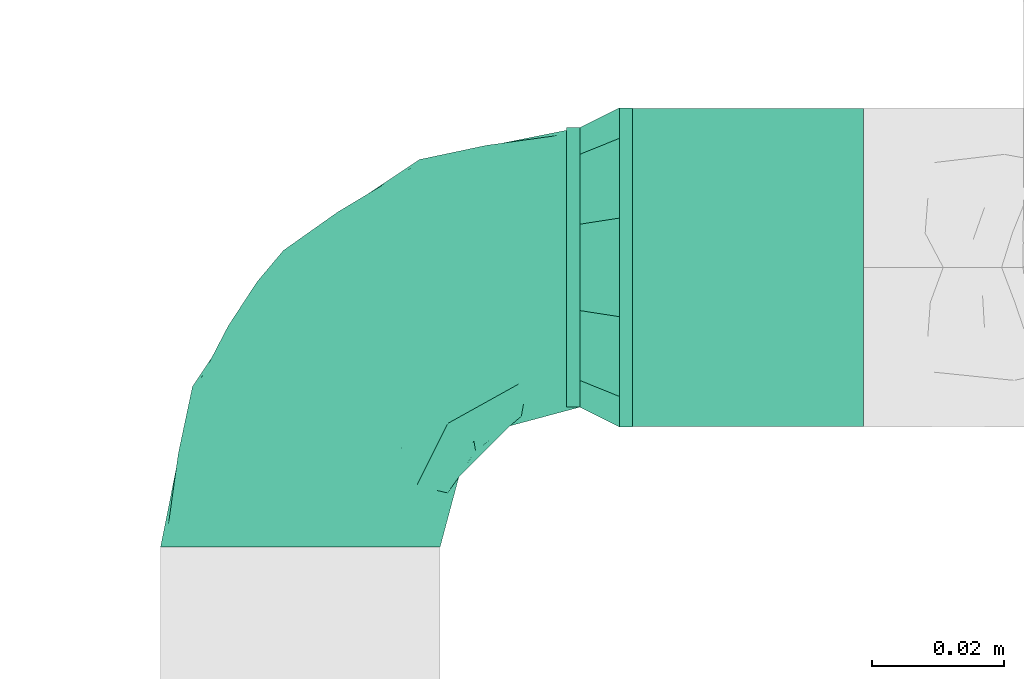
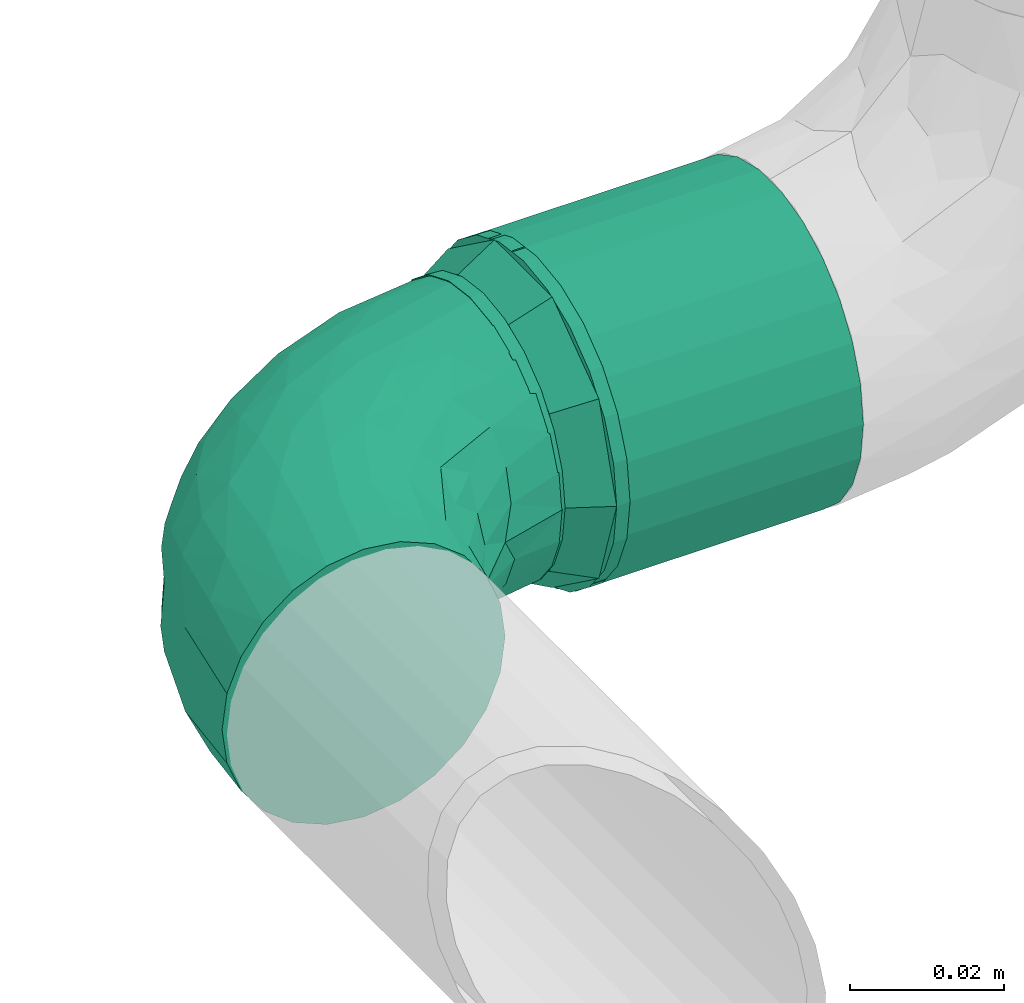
# One storey, part 25 of 43: 2 flow fittings, 1 flow segment.
"""IFC2X3 building model written with IfcOpenShell, lengths in millimetres."""

from ifc_helpers import new_model, entity, si_unit, converted_unit, derived_unit, direction, frame, origin_with_axes, origin_2d_with_axis, place, context, subcontext, project, spatial, hollow_circle, extrude, open_shell, surface_model, source, transform, mapped, type_object, element, save


model = new_model("IFC2X3")

# Units and contexts
model_context = context("Model", 3, precision=0.01, world=frame((0.0, 4.29681676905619e-09, 0.0)), true_north=direction((4.01073788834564e-13, 1.0)))
plan_context = context("Plan", 3, precision=0.01, world=frame((0.0, 4.29681676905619e-09, 0.0)), true_north=direction((4.01073788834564e-13, 1.0)))
body_context = subcontext(model_context, "Body", "Model", "MODEL_VIEW")
ifc_project = project(units=[converted_unit("PLANEANGLEUNIT", "DEGREE", entity("IfcPositiveLengthMeasure", 0.0174532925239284), si_unit("PLANEANGLEUNIT", "RADIAN"), dimensions=[0, 0, 0, 0, 0, 0, 0]), si_unit("AREAUNIT", "SQUARE_METRE"), si_unit("LENGTHUNIT", "METRE", prefix="MILLI"), si_unit("MASSUNIT", "GRAM", prefix="KILO"), si_unit("POWERUNIT", "WATT"), si_unit("PRESSUREUNIT", "PASCAL"), si_unit("FORCEUNIT", "NEWTON", prefix="KILO"), si_unit("ELECTRICVOLTAGEUNIT", "VOLT"), si_unit("ELECTRICCURRENTUNIT", "AMPERE"), si_unit("THERMODYNAMICTEMPERATUREUNIT", "DEGREE_CELSIUS"), si_unit("TIMEUNIT", "SECOND"), si_unit("VOLUMEUNIT", "CUBIC_METRE"), derived_unit("LINEARVELOCITYUNIT", [(si_unit("LENGTHUNIT", "METRE"), 1), (si_unit("TIMEUNIT", "SECOND"), -1)]), derived_unit("VOLUMETRICFLOWRATEUNIT", [(si_unit("VOLUMEUNIT", "CUBIC_METRE"), 1), (si_unit("TIMEUNIT", "SECOND"), -1)]), derived_unit("THERMALTRANSMITTANCEUNIT", [(si_unit("POWERUNIT", "WATT"), 1), (si_unit("THERMODYNAMICTEMPERATUREUNIT", "KELVIN"), -1), (si_unit("AREAUNIT", "SQUARE_METRE"), -1)]), derived_unit("SOUNDPRESSUREUNIT", [(si_unit("PRESSUREUNIT", "PASCAL"), 1)])], contexts=[model_context, plan_context])

# Site, building, storey
site_placement = place(None, frame((0.0, -4.29681676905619e-09, 0.0), z_axis=(0.0, 0.0, 1.0), x_axis=(1.0, 0.0, 0.0)))
site = spatial("IfcSite", under=ifc_project, at=site_placement, CompositionType="ELEMENT")
building_placement = place(site_placement, frame((0.0, 4.29681676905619e-09, 0.0), z_axis=(0.0, 0.0, 1.0), x_axis=(1.0, 0.0, 0.0)))
building = spatial("IfcBuilding", under=site, at=building_placement, Name="mc-building", CompositionType="ELEMENT")
storey_placement = place(building_placement, frame((0.0, 0.0, 210900.0), z_axis=(0.0, 0.0, 1.0), x_axis=(1.0, 0.0, 0.0)))
storey = spatial("IfcBuildingStorey", under=building, at=storey_placement, Name="Nivå F", CompositionType="ELEMENT", Elevation=210900.0)

# Flow fittings
pipe_fitting_type_1 = type_object("IfcPipeFittingType", Name="magi_pipe_fe_elbow_short_001", PredefinedType="BEND")
shared_shape_1 = source(origin_with_axes(), body_context, "Body", "SurfaceModel", [
    surface_model("IfcShellBasedSurfaceModel", [(-42.4, 10.6, -18.35974), (-42.4, 5.48696, -20.47763), (-42.4, 0.0, -21.2), (-42.4, 14.99066, -14.99066), (-42.4, 20.47763, -5.48696), (-42.4, 18.35974, -10.6), (-42.4, -14.99066, 14.99066), (-42.4, -21.2, 0.0), (-42.4, -10.6, -18.35974), (-42.4, -14.99066, -14.99066), (-42.4, -5.48696, -20.47763), (-42.4, -18.35974, -10.6), (-42.4, -20.47763, -5.48696), (-42.4, 10.6, 18.35974), (-42.4, 20.47763, 5.48696), (-42.4, 18.35974, 10.6), (-42.4, 14.99066, 14.99066), (-42.4, 5.48696, 20.47763), (-42.4, 0.0, 21.2), (-42.4, -20.47763, 5.48696), (-42.4, -18.35974, 10.6), (-42.4, -10.6, 18.35974), (-42.4, -5.48696, 20.47763), (-42.4, 21.2, 0.0), (0.0, 42.4, -21.2), (-5.48696, 42.4, -20.47763), (-10.6, 42.4, -18.35974), (-14.99066, 42.4, -14.99066), (-18.35974, 42.4, -10.6), (-20.47763, 42.4, -5.48696), (21.2, 42.4, 0.0), (5.48696, 42.4, -20.47763), (14.99066, 42.4, -14.99066), (10.6, 42.4, -18.35974), (18.35974, 42.4, -10.6), (20.47763, 42.4, -5.48696), (14.99066, 42.4, 14.99066), (-20.47763, 42.4, 5.48696), (-10.6, 42.4, 18.35974), (-14.99066, 42.4, 14.99066), (-18.35974, 42.4, 10.6), (-5.48696, 42.4, 20.47763), (0.0, 42.4, 21.2), (18.35974, 42.4, 10.6), (20.47763, 42.4, 5.48696), (5.48696, 42.4, 20.47763), (10.6, 42.4, 18.35974), (-21.2, 42.4, 0.0), (-31.10239, -16.47009, 11.90111), (-27.83957, -12.231, 15.79732), (-30.23067, -18.77937, 0.0), (-18.74048, -13.50096, 10.69998), (-28.17586, -18.50359, 6.61185), (18.50359, 28.17586, 6.61185), (14.95929, 16.60735, 5.43468), (16.35874, 18.06133, 0.0), (-20.72313, 33.83635, 9.21426), (-17.70981, 33.00599, 13.92769), (-31.16033, -8.01664, 19.07348), (-32.38682, -2.80842, 20.83743), (-29.68688, 3.24967, 21.16387), (-7.74467, -9.46536, 0.0), (-16.60735, -14.95929, 5.43468), (-18.06133, -16.35874, 0.0), (-16.37932, -5.14532, 17.61254), (-21.10659, -0.19025, 20.54817), (-1.82445, -3.58377, 9.55223), (-0.35533, 0.43745, 12.66367), (-7.20655, -5.07682, 13.06146), (-33.14056, 17.6728, 13.91288), (-7.36799, 20.84806, 21.16196), (-15.70315, 15.70315, 20.68489), (-12.62356, 9.26422, 21.0908), (-36.67879, 12.83836, 17.27427), (-7.91358, 36.5686, 19.85759), (-2.90555, 31.71221, 21.14793), (-33.84689, 20.71971, 9.21285), (-33.51649, 22.58113, 4.66115), (-26.3226, 26.3226, 7.92474), (-32.67995, 8.31454, 20.02643), (-5.53379, 14.19921, 20.81623), (-10.53385, 3.88918, 19.79653), (-2.16577, 11.45378, 19.48254), (-3.78693, 3.78693, 17.3328), (12.231, 27.83957, 15.79732), (13.50096, 18.74047, 10.69998), (16.47009, 31.10239, 11.90111), (-22.53806, 14.38475, 19.60876), (-23.29615, 9.08095, 20.82061), (2.80842, 32.38682, 20.83743), (8.01664, 31.16033, 19.07348), (5.14532, 16.37932, 17.61254), (18.77937, 30.23067, 0.0), (-20.80278, 5.19491, 21.19095), (-19.62579, 22.38752, 17.42006), (-29.19336, 14.39093, 17.85259), (-22.31569, 34.20044, 4.54807), (-26.56962, 27.80621, 3.73106), (9.67657, 17.17133, 14.49993), (-24.04026, 31.8, 0.0), (-9.16861, 28.72652, 20.19004), (-12.09761, 21.9456, 20.37969), (-15.36991, 27.40112, 17.818), (-16.88976, 20.52477, 19.2896), (-12.95169, 35.54896, 17.36222), (-17.17133, -9.67657, 14.49993), (-21.98655, 28.10245, 11.99898), (-22.34699, 23.67592, 15.01692), (-27.22822, 22.77969, 11.82161), (0.19025, 21.10658, 20.54817), (4.8276, 7.36347, 13.42842), (-10.06209, -9.46364, 9.95114), (1.25876, -2.7536, 5.73797), (6.43781, 3.77591, 7.40371), (6.57528, 2.20066, 3.17705), (10.91934, 8.84313, 5.00748), (10.64415, 10.99764, 8.89767), (-31.8, 24.04026, 0.0), (-5.71381, -8.43063, 6.15529), (2.57199, -2.57199, 0.0), (9.46536, 7.74467, 0.0), (-17.17133, -9.67657, -14.49993), (-27.83957, -12.231, -15.79732), (-16.37932, -5.14532, -17.61254), (-18.74048, -13.50096, -10.69998), (-33.00599, 17.70981, -13.92769), (-35.54896, 12.95169, -17.36222), (-34.20044, 22.31569, -4.54807), (-28.17586, -18.50359, -6.61185), (-26.3226, 26.3226, -7.92474), (-33.83635, 20.72313, -9.21426), (-16.60735, -14.95929, -5.43468), (-20.52477, 16.88976, -19.2896), (-21.9456, 12.0976, -20.37969), (-27.40112, 15.36991, -17.818), (-12.83836, 36.67879, -17.27427), (-17.6728, 33.14056, -13.91288), (8.01664, 31.16033, -19.07348), (5.14532, 16.37932, -17.61254), (0.19025, 21.10658, -20.54817), (-36.5686, 7.91358, -19.85759), (-31.10239, -16.47009, -11.90111), (-31.16033, -8.01664, -19.07348), (-14.38475, 22.53806, -19.60876), (-8.31454, 32.67995, -20.02643), (-9.08095, 23.29615, -20.82061), (-32.38682, -2.80842, -20.83743), (-20.84806, 7.36799, -21.16196), (-15.70315, 15.70314, -20.68489), (-9.26422, 12.62356, -21.0908), (-31.71221, 2.90555, -21.14793), (-22.58113, 33.51649, -4.66115), (-20.71971, 33.84689, -9.21285), (-28.72652, 9.16861, -20.19004), (-27.80621, 26.56962, -3.73106), (-5.19491, 20.80278, -21.19095), (-22.38752, 19.62579, -17.42006), (-14.39093, 29.19336, -17.85259), (2.80842, 32.38682, -20.83743), (-3.24967, 29.68688, -21.16387), (16.47009, 31.10239, -11.90111), (12.231, 27.83957, -15.79732), (6.57528, 2.20067, -3.17705), (10.91934, 8.84313, -5.00749), (-14.19921, 5.53379, -20.81623), (-3.88918, 10.53385, -19.79653), (-11.45378, 2.16577, -19.48254), (1.25876, -2.7536, -5.73797), (-5.71381, -8.43063, -6.15529), (-1.82445, -3.58377, -9.55223), (13.50096, 18.74048, -10.69998), (18.50359, 28.17586, -6.61185), (14.95929, 16.60735, -5.43468), (-28.10245, 21.98655, -11.99898), (9.67657, 17.17133, -14.49993), (10.64415, 10.99764, -8.89767), (4.8276, 7.36347, -13.42842), (-23.67592, 22.34699, -15.01692), (-22.77969, 27.22822, -11.82161), (-21.10658, -0.19025, -20.54817), (-3.78693, 3.78693, -17.3328), (-7.20655, -5.07682, -13.06146), (-10.06209, -9.46364, -9.95113), (-0.35533, 0.43745, -12.66367), (6.43781, 3.77591, -7.40371)], [open_shell([[[0, 1, 2]], [[3, 0, 2]], [[4, 5, 3]], [[2, 4, 3]], [[6, 2, 7]], [[8, 9, 10]], [[11, 10, 9]], [[12, 7, 11]], [[2, 10, 11]], [[11, 7, 2]], [[6, 4, 2]], [[13, 14, 4]], [[15, 14, 16]], [[4, 6, 13]], [[16, 14, 13]], [[17, 13, 18]], [[19, 20, 7]], [[7, 20, 6]], [[21, 22, 6]], [[18, 6, 22]], [[6, 18, 13]], [[23, 4, 14]], [[24, 25, 26]], [[24, 26, 27]], [[27, 28, 29]], [[27, 29, 24]], [[24, 29, 30]], [[31, 32, 33]], [[31, 24, 32]], [[34, 30, 35]], [[32, 24, 34]], [[24, 30, 34]], [[29, 36, 30]], [[29, 37, 38]], [[39, 37, 40]], [[36, 29, 38]], [[38, 37, 39]], [[41, 42, 38]], [[30, 43, 44]], [[36, 43, 30]], [[36, 45, 46]], [[45, 36, 42]], [[38, 42, 36]], [[37, 29, 47]], [[6, 48, 49]], [[19, 7, 50]], [[51, 48, 52]], [[53, 54, 55]], [[48, 6, 20]], [[19, 52, 20]], [[40, 56, 57]], [[49, 21, 6]], [[49, 58, 21]], [[18, 59, 60]], [[61, 62, 63]], [[58, 64, 65]], [[66, 67, 68]], [[15, 16, 69]], [[70, 71, 72]], [[13, 73, 16]], [[22, 59, 18]], [[41, 74, 75]], [[18, 60, 17]], [[15, 69, 76]], [[16, 73, 69]], [[23, 14, 77]], [[14, 15, 76]], [[77, 76, 78]], [[17, 79, 13]], [[80, 81, 82]], [[68, 83, 64]], [[84, 36, 46]], [[85, 86, 84]], [[87, 79, 88]], [[21, 58, 22]], [[42, 89, 45]], [[53, 44, 43]], [[42, 41, 75]], [[84, 90, 91]], [[43, 86, 53]], [[92, 44, 53]], [[86, 43, 36]], [[90, 46, 45]], [[53, 55, 92]], [[88, 93, 72]], [[54, 53, 85]], [[87, 94, 95]], [[78, 96, 97]], [[98, 84, 91]], [[99, 96, 47]], [[79, 17, 60]], [[96, 78, 56]], [[62, 52, 63]], [[57, 39, 40]], [[100, 70, 75]], [[101, 102, 103]], [[19, 50, 52]], [[104, 38, 39]], [[74, 41, 38]], [[57, 102, 104]], [[105, 64, 49]], [[90, 84, 46]], [[40, 37, 56]], [[56, 106, 57]], [[102, 57, 107]], [[95, 107, 69]], [[76, 108, 78]], [[100, 101, 70]], [[89, 75, 109]], [[64, 58, 49]], [[63, 52, 50]], [[59, 58, 65]], [[105, 49, 51]], [[64, 83, 81]], [[89, 90, 45]], [[30, 44, 92]], [[109, 82, 91]], [[109, 91, 90]], [[91, 83, 110]], [[111, 68, 105]], [[66, 68, 111]], [[62, 51, 52]], [[66, 112, 113]], [[114, 115, 113]], [[98, 85, 84]], [[52, 48, 20]], [[49, 48, 51]], [[84, 86, 36]], [[53, 86, 85]], [[88, 79, 60]], [[73, 79, 95]], [[96, 56, 37]], [[78, 108, 106]], [[87, 103, 94]], [[100, 74, 104]], [[108, 69, 107]], [[78, 97, 77]], [[88, 72, 71]], [[109, 75, 70]], [[81, 72, 65]], [[70, 72, 80]], [[75, 89, 42]], [[90, 89, 109]], [[58, 59, 22]], [[60, 59, 65]], [[67, 83, 68]], [[110, 113, 116]], [[88, 60, 93]], [[87, 88, 71]], [[103, 87, 71]], [[79, 87, 95]], [[101, 103, 71]], [[94, 103, 102]], [[47, 96, 37]], [[96, 99, 97]], [[99, 117, 97]], [[97, 117, 77]], [[23, 77, 117]], [[14, 76, 77]], [[60, 65, 93]], [[65, 72, 93]], [[70, 101, 71]], [[102, 101, 100]], [[69, 108, 76]], [[106, 108, 107]], [[57, 106, 107]], [[78, 106, 56]], [[57, 104, 39]], [[100, 104, 102]], [[102, 107, 94]], [[95, 94, 107]], [[64, 81, 65]], [[82, 81, 83]], [[91, 82, 83]], [[80, 82, 109]], [[70, 80, 109]], [[81, 80, 72]], [[79, 73, 13]], [[69, 73, 95]], [[104, 74, 38]], [[75, 74, 100]], [[62, 61, 118]], [[111, 62, 118]], [[113, 115, 116]], [[119, 118, 61]], [[111, 105, 51]], [[113, 112, 114]], [[120, 55, 54]], [[68, 64, 105]], [[91, 110, 98]], [[116, 98, 110]], [[62, 111, 51]], [[66, 111, 118]], [[112, 66, 118]], [[67, 113, 110]], [[118, 119, 112]], [[114, 112, 119]], [[119, 120, 114]], [[115, 120, 54]], [[120, 115, 114]], [[116, 54, 85]], [[54, 116, 115]], [[116, 85, 98]], [[113, 67, 66]], [[83, 67, 110]], [[121, 122, 123]], [[122, 121, 124]], [[5, 125, 3]], [[3, 126, 0]], [[117, 127, 23]], [[50, 12, 128]], [[127, 129, 130]], [[128, 131, 63]], [[132, 133, 134]], [[27, 135, 136]], [[137, 138, 139]], [[0, 140, 1]], [[128, 11, 141]], [[142, 8, 10]], [[128, 63, 50]], [[5, 4, 130]], [[11, 9, 141]], [[143, 144, 145]], [[146, 10, 2]], [[147, 148, 149]], [[11, 128, 12]], [[124, 141, 122]], [[150, 2, 1]], [[151, 152, 129]], [[125, 134, 126]], [[153, 147, 150]], [[127, 154, 129]], [[145, 155, 149]], [[47, 29, 151]], [[143, 156, 157]], [[152, 29, 28]], [[24, 158, 159]], [[122, 9, 8]], [[27, 26, 135]], [[144, 26, 25]], [[32, 160, 161]], [[24, 31, 158]], [[120, 162, 163]], [[130, 125, 5]], [[27, 136, 28]], [[1, 140, 150]], [[33, 161, 137]], [[142, 122, 8]], [[24, 159, 25]], [[164, 165, 166]], [[167, 168, 169]], [[34, 160, 32]], [[161, 33, 32]], [[170, 160, 171]], [[131, 128, 124]], [[30, 92, 35]], [[35, 92, 171]], [[172, 171, 55]], [[35, 171, 34]], [[144, 25, 159]], [[130, 173, 125]], [[174, 175, 176]], [[136, 152, 28]], [[33, 137, 31]], [[122, 142, 123]], [[134, 125, 177]], [[157, 177, 136]], [[152, 178, 129]], [[153, 133, 147]], [[146, 150, 179]], [[146, 142, 10]], [[7, 12, 50]], [[179, 166, 123]], [[179, 123, 142]], [[123, 180, 181]], [[138, 137, 161]], [[55, 171, 92]], [[158, 137, 139]], [[174, 161, 170]], [[138, 180, 165]], [[180, 138, 176]], [[124, 121, 182]], [[176, 183, 180]], [[61, 131, 168]], [[169, 168, 182]], [[172, 170, 171]], [[122, 141, 9]], [[128, 141, 124]], [[171, 160, 34]], [[161, 160, 170]], [[145, 144, 159]], [[135, 144, 157]], [[127, 130, 4]], [[129, 178, 173]], [[143, 132, 156]], [[153, 140, 126]], [[178, 136, 177]], [[129, 154, 151]], [[145, 149, 148]], [[179, 150, 147]], [[165, 149, 139]], [[147, 149, 164]], [[150, 146, 2]], [[142, 146, 179]], [[137, 158, 31]], [[159, 158, 139]], [[174, 138, 161]], [[184, 169, 183]], [[145, 159, 155]], [[143, 145, 148]], [[132, 143, 148]], [[144, 143, 157]], [[133, 132, 148]], [[156, 132, 134]], [[23, 127, 4]], [[127, 117, 154]], [[117, 99, 154]], [[154, 99, 151]], [[47, 151, 99]], [[29, 152, 151]], [[159, 139, 155]], [[139, 149, 155]], [[147, 133, 148]], [[134, 133, 153]], [[136, 178, 152]], [[173, 178, 177]], [[125, 173, 177]], [[129, 173, 130]], [[125, 126, 3]], [[153, 126, 134]], [[134, 177, 156]], [[157, 156, 177]], [[138, 165, 139]], [[166, 165, 180]], [[123, 166, 180]], [[164, 166, 179]], [[147, 164, 179]], [[165, 164, 149]], [[144, 135, 26]], [[136, 135, 157]], [[126, 140, 0]], [[150, 140, 153]], [[182, 131, 124]], [[168, 119, 61]], [[119, 167, 162]], [[63, 131, 61]], [[172, 163, 175]], [[172, 55, 120]], [[123, 181, 121]], [[182, 121, 181]], [[175, 174, 170]], [[176, 138, 174]], [[169, 182, 181]], [[131, 182, 168]], [[183, 169, 181]], [[167, 169, 184]], [[162, 167, 184]], [[119, 168, 167]], [[163, 162, 184]], [[120, 119, 162]], [[175, 163, 184]], [[120, 163, 172]], [[176, 175, 184]], [[172, 175, 170]], [[180, 183, 181]], [[184, 183, 176]]])]),
])
flow_fitting_1_placement = place(storey_placement, frame((605568.59161, 697325.26176, 2270.0), z_axis=(0.0, 0.0, 1.0), x_axis=(-1.0, 0.0, 0.0)))
element("IfcFlowFitting", 1, at=flow_fitting_1_placement, inside=storey, type_object=pipe_fitting_type_1, Name="magi_pipe_fe_elbow_short_001", context=body_context, shape_type="MappedRepresentation", body=[
    mapped(shared_shape_1, transform((0.0, 0.0, 0.0), scale=1.0)),
])
pipe_fitting_type_2 = type_object("IfcPipeFittingType", Name="magi_pipe_fe_reducer_centric_short_NOR", PredefinedType="TRANSITION")
shared_shape_2 = source(origin_with_axes(), body_context, "Body", "SurfaceModel", [
    surface_model("IfcShellBasedSurfaceModel", [(8.0, 10.6, -18.35974), (8.0, 0.0, -21.2), (8.0, 5.48696, -20.47763), (8.0, 20.47763, -5.48696), (8.0, 14.99066, -14.99066), (8.0, -21.2, 0.0), (8.0, -14.99066, -14.99066), (8.0, 18.35974, -10.6), (8.0, -10.6, -18.35974), (8.0, -5.48696, -20.47763), (8.0, -18.35974, -10.6), (8.0, -20.47763, -5.48696), (8.0, -18.35974, 10.6), (8.0, 21.2, 0.0), (8.0, 20.47763, 5.48696), (8.0, 18.35974, 10.6), (8.0, 14.99066, 14.99066), (8.0, 0.0, 21.2), (8.0, 10.6, 18.35974), (8.0, 5.48696, 20.47763), (8.0, -14.99066, 14.99066), (8.0, -20.47763, 5.48696), (8.0, -5.48696, 20.47763), (8.0, -10.6, 18.35974), (6.0, 0.0, 21.2), (6.0, 5.48696, 20.47763), (6.0, 10.6, 18.35974), (6.0, 14.99066, 14.99066), (6.0, 18.35974, 10.6), (6.0, 20.47763, 5.48696), (6.0, -21.2, 0.0), (6.0, -14.99066, -14.99066), (6.0, -5.48696, 20.47763), (6.0, -14.99066, 14.99066), (6.0, -10.6, 18.35974), (6.0, -18.35974, 10.6), (6.0, -20.47763, 5.48696), (6.0, 20.47763, -5.48696), (6.0, 10.6, -18.35974), (6.0, 14.99066, -14.99066), (6.0, 18.35974, -10.6), (6.0, 5.48696, -20.47763), (6.0, 0.0, -21.2), (6.0, -18.35974, -10.6), (6.0, -20.47763, -5.48696), (6.0, -10.6, -18.35974), (6.0, -5.48696, -20.47763), (6.0, 21.2, 0.0), (-2.0, 0.0, 24.2), (-2.0, 6.26342, 23.37541), (-2.0, 12.1, 20.95781), (-2.0, 17.11198, 17.11198), (-2.0, 24.2, 0.0), (-2.0, 20.95781, 12.1), (-2.0, -23.37541, 6.26342), (-2.0, -17.11198, -17.11198), (-2.0, -6.26342, 23.37541), (-2.0, -17.11198, 17.11198), (-2.0, -12.1, 20.95781), (-2.0, -20.95781, 12.1), (-2.0, -24.2, 0.0), (-2.0, 23.37541, 6.26342), (-2.0, 23.37541, -6.26342), (-2.0, 6.26342, -23.37541), (-2.0, 17.11198, -17.11198), (-2.0, 20.95781, -12.1), (-2.0, 12.1, -20.95781), (-2.0, -23.37541, -6.26342), (-2.0, -20.95781, -12.1), (-2.0, -6.26342, -23.37541), (-2.0, -12.1, -20.95781), (-2.0, 0.0, -24.2), (0.0, 24.2, 0.0), (0.0, 6.26342, -23.37541), (0.0, 12.1, -20.95781), (0.0, 23.37541, -6.26342), (0.0, 17.11198, -17.11198), (0.0, 20.95781, -12.1), (0.0, -24.2, 0.0), (0.0, -12.1, -20.95781), (0.0, -6.26342, -23.37541), (0.0, 0.0, -24.2), (0.0, -17.11198, -17.11198), (0.0, -23.37541, -6.26342), (0.0, -20.95781, -12.1), (0.0, 20.95781, 12.1), (0.0, 17.11198, 17.11198), (0.0, 12.1, 20.95781), (0.0, 6.26342, 23.37541), (0.0, 0.0, 24.2), (0.0, -23.37541, 6.26342), (0.0, -17.11198, 17.11198), (0.0, -20.95781, 12.1), (0.0, -6.26342, 23.37541), (0.0, -12.1, 20.95781), (0.0, 23.37541, 6.26342), (6.0, -6.55116, 20.1624), (6.0, -17.15116, 12.46105), (6.0, 17.15116, 12.46105), (6.0, 6.55116, 20.1624), (6.0, -6.55116, -20.1624), (6.0, -17.15116, -12.46105), (6.0, 6.55116, -20.1624), (6.0, 17.15116, -12.46105), (0.0, 7.47821, 23.01557), (0.0, 19.57821, 14.2244), (0.0, -7.47821, 23.01557), (0.0, -19.57821, 14.2244), (0.0, 7.47821, -23.01557), (0.0, 19.57821, -14.2244), (0.0, -7.47821, -23.01557), (0.0, -19.57821, -14.2244), (6.0, 11.85116, -16.31172), (0.0, 13.52821, -18.61999), (0.0, 21.8891, -7.1122), (6.0, 19.17558, -6.23052), (0.0, -22.51537, -5.18476), (6.0, 0.0, -20.1624), (0.0, 0.0, -23.01557), (6.0, -19.17558, -6.23052), (0.0, -13.52821, -18.61999), (6.0, -11.85116, -16.31172), (0.0, -21.04679, -9.70458), (6.0, -11.85116, 16.31172), (0.0, -13.52821, 18.61999), (0.0, -21.8891, 7.1122), (6.0, -19.17558, 6.23052), (0.0, 22.51537, 5.18476), (6.0, 0.0, 20.1624), (0.0, 0.0, 23.01557), (6.0, 19.17558, 6.23052), (0.0, 13.52821, 18.61999), (6.0, 11.85116, 16.31172), (0.0, 21.04679, 9.70458)], [open_shell([[[0, 1, 2]], [[3, 0, 4]], [[5, 6, 0]], [[3, 4, 7]], [[3, 5, 0]], [[1, 8, 9]], [[1, 0, 8]], [[10, 5, 11]], [[8, 0, 6]], [[10, 6, 5]], [[12, 3, 13]], [[14, 15, 16]], [[14, 16, 17]], [[18, 19, 17]], [[18, 17, 16]], [[14, 17, 20]], [[5, 12, 21]], [[3, 12, 5]], [[20, 22, 23]], [[12, 14, 20]], [[17, 22, 20]], [[12, 13, 14]], [[24, 25, 26]], [[24, 26, 27]], [[27, 28, 29]], [[27, 29, 24]], [[30, 24, 31]], [[32, 33, 34]], [[32, 24, 33]], [[35, 30, 36]], [[33, 24, 35]], [[24, 30, 35]], [[24, 29, 31]], [[29, 37, 38]], [[39, 37, 40]], [[31, 29, 38]], [[38, 37, 39]], [[41, 42, 38]], [[30, 43, 44]], [[31, 43, 30]], [[45, 42, 46]], [[45, 31, 38]], [[42, 45, 38]], [[37, 29, 47]], [[44, 11, 30]], [[43, 10, 44]], [[8, 31, 45]], [[43, 31, 6]], [[9, 45, 46]], [[44, 10, 11]], [[11, 5, 30]], [[9, 8, 45]], [[6, 31, 8]], [[6, 10, 43]], [[1, 9, 46]], [[46, 42, 1]], [[41, 2, 42]], [[38, 0, 41]], [[7, 39, 40]], [[38, 39, 4]], [[3, 40, 37]], [[38, 4, 0]], [[0, 2, 41]], [[13, 3, 37]], [[7, 40, 3]], [[7, 4, 39]], [[47, 13, 37]], [[42, 2, 1]], [[29, 14, 47]], [[28, 15, 29]], [[18, 27, 26]], [[28, 27, 16]], [[19, 26, 25]], [[29, 15, 14]], [[14, 13, 47]], [[19, 18, 26]], [[16, 27, 18]], [[16, 15, 28]], [[17, 19, 25]], [[25, 24, 17]], [[32, 22, 24]], [[34, 23, 32]], [[12, 33, 35]], [[34, 33, 20]], [[21, 35, 36]], [[34, 20, 23]], [[23, 22, 32]], [[5, 21, 36]], [[12, 35, 21]], [[12, 20, 33]], [[30, 5, 36]], [[24, 22, 17]], [[48, 49, 50]], [[48, 50, 51]], [[52, 51, 53]], [[54, 48, 55]], [[48, 51, 55]], [[56, 57, 58]], [[56, 48, 57]], [[57, 54, 59]], [[48, 54, 57]], [[54, 55, 60]], [[52, 53, 61]], [[51, 62, 63]], [[64, 62, 65]], [[66, 63, 62]], [[66, 62, 64]], [[63, 55, 51]], [[67, 55, 68]], [[60, 55, 67]], [[63, 69, 70]], [[70, 55, 63]], [[69, 63, 71]], [[62, 51, 52]], [[72, 73, 74]], [[75, 74, 76]], [[75, 72, 74]], [[75, 76, 77]], [[73, 78, 79]], [[73, 80, 81]], [[73, 79, 80]], [[82, 83, 84]], [[82, 79, 78]], [[82, 78, 83]], [[73, 72, 85]], [[85, 86, 73]], [[73, 86, 78]], [[87, 88, 89]], [[87, 89, 86]], [[78, 86, 89]], [[90, 91, 92]], [[93, 90, 78]], [[91, 93, 94]], [[93, 91, 90]], [[78, 89, 93]], [[72, 95, 85]], [[67, 83, 60]], [[68, 84, 67]], [[79, 55, 70]], [[68, 55, 82]], [[80, 70, 69]], [[67, 84, 83]], [[83, 78, 60]], [[80, 79, 70]], [[82, 55, 79]], [[82, 84, 68]], [[81, 80, 69]], [[69, 71, 81]], [[63, 73, 71]], [[66, 74, 63]], [[77, 64, 65]], [[66, 64, 76]], [[75, 65, 62]], [[66, 76, 74]], [[74, 73, 63]], [[72, 75, 62]], [[77, 65, 75]], [[77, 76, 64]], [[52, 72, 62]], [[71, 73, 81]], [[61, 95, 52]], [[53, 85, 61]], [[87, 51, 50]], [[53, 51, 86]], [[88, 50, 49]], [[61, 85, 95]], [[95, 72, 52]], [[88, 87, 50]], [[86, 51, 87]], [[86, 85, 53]], [[89, 88, 49]], [[49, 48, 89]], [[56, 93, 48]], [[58, 94, 56]], [[92, 57, 59]], [[58, 57, 91]], [[90, 59, 54]], [[58, 91, 94]], [[94, 93, 56]], [[78, 90, 54]], [[92, 59, 90]], [[92, 91, 57]], [[60, 78, 54]], [[48, 93, 89]], [[96, 97, 98]], [[96, 98, 99]], [[98, 97, 47]], [[97, 100, 47]], [[97, 101, 100]], [[102, 103, 47]], [[47, 100, 102]], [[101, 97, 30]], [[104, 105, 106]], [[105, 107, 106]], [[107, 105, 78]], [[105, 108, 78]], [[109, 108, 105]], [[78, 110, 111]], [[78, 108, 110]], [[105, 72, 109]], [[109, 103, 112]], [[102, 113, 112]], [[113, 102, 108]], [[114, 115, 103]], [[47, 115, 72]], [[113, 109, 112]], [[30, 78, 116]], [[108, 117, 118]], [[118, 117, 100]], [[100, 110, 118]], [[103, 109, 114]], [[72, 115, 114]], [[116, 119, 30]], [[120, 121, 101]], [[100, 121, 110]], [[119, 122, 101]], [[110, 121, 120]], [[101, 111, 120]], [[119, 116, 122]], [[102, 117, 108]], [[122, 111, 101]], [[107, 97, 123]], [[96, 124, 123]], [[124, 96, 106]], [[125, 126, 97]], [[30, 126, 78]], [[124, 107, 123]], [[47, 72, 127]], [[106, 128, 129]], [[129, 128, 99]], [[99, 104, 129]], [[97, 107, 125]], [[78, 126, 125]], [[127, 130, 47]], [[131, 132, 98]], [[99, 132, 104]], [[130, 133, 98]], [[104, 132, 131]], [[98, 105, 131]], [[130, 127, 133]], [[96, 128, 106]], [[133, 105, 98]]])]),
])
flow_fitting_2_placement = place(storey_placement, frame((605616.99161, 697325.26176, 2270.0), z_axis=(0.0, 0.0, 1.0), x_axis=(-1.0, 0.0, 0.0)))
element("IfcFlowFitting", 2, at=flow_fitting_2_placement, inside=storey, type_object=pipe_fitting_type_2, Name="magi_pipe_fe_reducer_centric_short_NOR", context=body_context, shape_type="MappedRepresentation", body=[
    mapped(shared_shape_2, transform((0.0, 0.0, 0.0), scale=1.0)),
])

# Flow segment
pipe_segment_type = type_object("IfcPipeSegmentType", Name="Stålrør normaltykke", PredefinedType="RIGIDSEGMENT")
shared_shape_3 = source(origin_with_axes(), body_context, "Body", "SweptSolid", [
    extrude(hollow_circle(Radius=24.1, WallThickness=2.0, at=origin_2d_with_axis()), frame((0.0, 0.0, 0.0), z_axis=(1.0, 0.0, 0.0), x_axis=(0.0, 1.0, 0.0)), (0.0, 0.0, 1.0), 37.0),
])
flow_segment_placement = place(storey_placement, frame((605616.99161, 697325.26176, 2270.0), z_axis=(0.0, 0.0, 1.0), x_axis=(1.0, 0.0, 0.0)))
element("IfcFlowSegment", 3, at=flow_segment_placement, inside=storey, type_object=pipe_segment_type, Name="Stålrør normaltykke", context=body_context, shape_type="MappedRepresentation", body=[
    mapped(shared_shape_3, transform((0.0, 0.0, 0.0), scale=1.0)),
])

save(model, "model.ifc")
